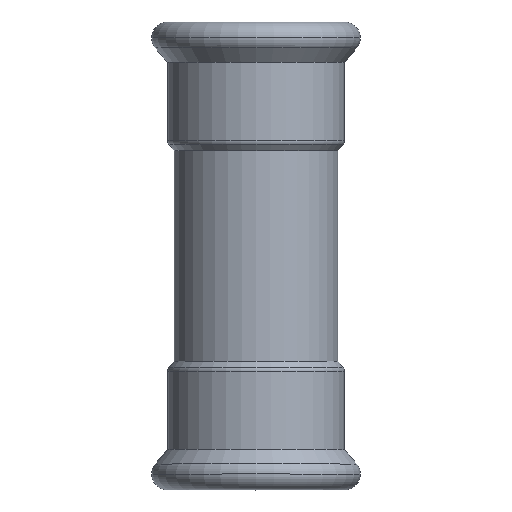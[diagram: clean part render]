
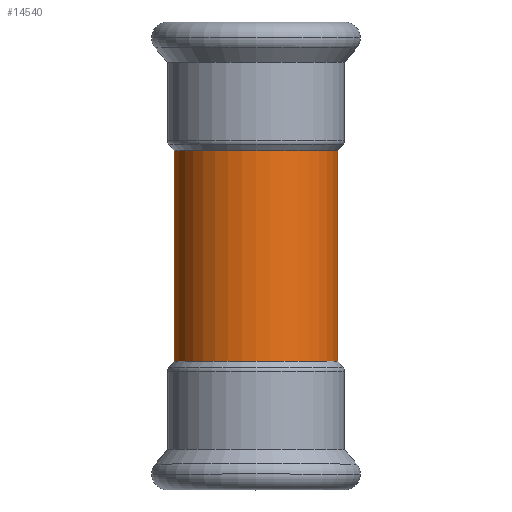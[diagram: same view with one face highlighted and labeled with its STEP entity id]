
A CAD part, top view. The second image highlights one B-rep face of the part: STEP entity #14540.
In plain terms, the highlighted cylindrical face has radius 21 mm (diameter 42 mm), a partial arc.
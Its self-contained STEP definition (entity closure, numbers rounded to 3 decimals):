
#5220=CARTESIAN_POINT('',(-404.306,8.173,
27.));
#5230=DIRECTION('',(0.,0.,1.));
#5240=DIRECTION('',(-1.,0.,0.));
#5250=AXIS2_PLACEMENT_3D('',#5220,#5230,#5240);
#5260=CYLINDRICAL_SURFACE('',#5250,21.);
#14180=CARTESIAN_POINT('',(-425.306,8.173,
27.));
#14190=DIRECTION('',(0.,0.,1.));
#14200=VECTOR('',#14190,1.);
#14210=LINE('',#14180,#14200);
#14220=CARTESIAN_POINT('',(-425.306,8.173,
-27.));
#14230=VERTEX_POINT('',#14220);
#14240=CARTESIAN_POINT('',(-425.306,8.173,
27.));
#14250=VERTEX_POINT('',#14240);
#14260=EDGE_CURVE('',#14230,#14250,#14210,.T.);
#14270=ORIENTED_EDGE('',*,*,#14260,.F.);
#14280=CARTESIAN_POINT('',(-404.306,8.173,
27.));
#14290=DIRECTION('',(0.,0.,1.));
#14300=DIRECTION('',(-1.,0.,0.));
#14310=AXIS2_PLACEMENT_3D('',#14280,#14290,#14300);
#14320=CIRCLE('',#14310,21.);
#14330=CARTESIAN_POINT('',(-383.306,8.173,
27.));
#14340=VERTEX_POINT('',#14330);
#14350=EDGE_CURVE('',#14250,#14340,#14320,.T.);
#14360=ORIENTED_EDGE('',*,*,#14350,.F.);
#14370=CARTESIAN_POINT('',(-383.306,8.173,
27.));
#14380=DIRECTION('',(0.,0.,1.));
#14390=VECTOR('',#14380,1.);
#14400=LINE('',#14370,#14390);
#14410=CARTESIAN_POINT('',(-383.306,8.173,
-27.));
#14420=VERTEX_POINT('',#14410);
#14430=EDGE_CURVE('',#14420,#14340,#14400,.T.);
#14440=ORIENTED_EDGE('',*,*,#14430,.T.);
#14450=CARTESIAN_POINT('',(-404.306,8.173,
-27.));
#14460=DIRECTION('',(0.,0.,1.));
#14470=DIRECTION('',(-1.,0.,0.));
#14480=AXIS2_PLACEMENT_3D('',#14450,#14460,#14470);
#14490=CIRCLE('',#14480,21.);
#14500=EDGE_CURVE('',#14230,#14420,#14490,.T.);
#14510=ORIENTED_EDGE('',*,*,#14500,.T.);
#14520=EDGE_LOOP('',(#14510,#14440,#14360,#14270));
#14530=FACE_OUTER_BOUND('',#14520,.T.);
#14540=ADVANCED_FACE('',(#14530),#5260,.T.);
